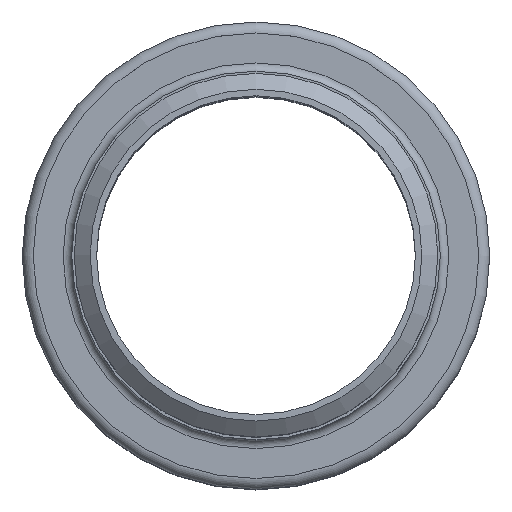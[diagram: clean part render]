
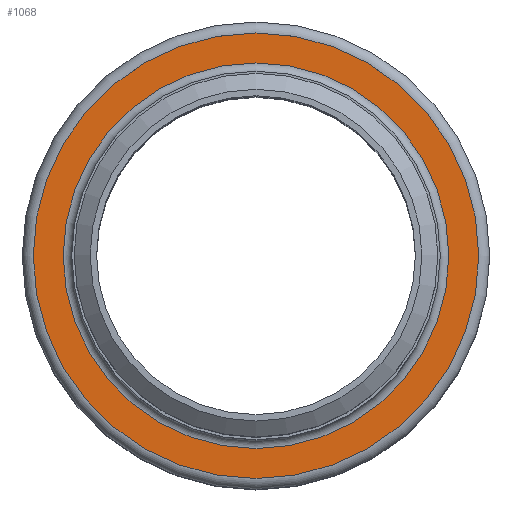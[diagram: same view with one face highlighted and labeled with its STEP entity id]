
A CAD part, top view. The second image highlights one B-rep face of the part: STEP entity #1068.
In plain terms, the highlighted planar face has unit normal (0, 0, 1).
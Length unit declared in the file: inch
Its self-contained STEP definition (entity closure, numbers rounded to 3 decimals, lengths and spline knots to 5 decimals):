
#102=FACE_BOUND('',#282,.T.);
#171=FACE_OUTER_BOUND('',#281,.T.);
#281=EDGE_LOOP('',(#824));
#282=EDGE_LOOP('',(#825));
#402=CIRCLE('',#1264,1.85575);
#403=CIRCLE('',#1266,2.14425);
#491=VERTEX_POINT('',#1935);
#492=VERTEX_POINT('',#1939);
#606=EDGE_CURVE('',#491,#491,#402,.T.);
#607=EDGE_CURVE('',#492,#492,#403,.T.);
#824=ORIENTED_EDGE('',*,*,#607,.F.);
#825=ORIENTED_EDGE('',*,*,#606,.T.);
#918=PLANE('',#1265);
#1068=ADVANCED_FACE('',(#171,#102),#918,.T.);
#1264=AXIS2_PLACEMENT_3D('',#1937,#1621,#1622);
#1265=AXIS2_PLACEMENT_3D('',#1938,#1623,#1624);
#1266=AXIS2_PLACEMENT_3D('',#1940,#1625,#1626);
#1621=DIRECTION('center_axis',(0.,0.,
-1.));
#1622=DIRECTION('ref_axis',(1.,0.,0.));
#1623=DIRECTION('center_axis',(0.,0.,
1.));
#1624=DIRECTION('ref_axis',(1.,0.,0.));
#1625=DIRECTION('center_axis',(0.,0.,
-1.));
#1626=DIRECTION('ref_axis',(1.,0.,0.));
#1935=CARTESIAN_POINT('',(1.85575,0.,-1.58175));
#1937=CARTESIAN_POINT('Origin',(0.,0.,
-1.58175));
#1938=CARTESIAN_POINT('Origin',(0.,2.14425,-1.58175));
#1939=CARTESIAN_POINT('',(2.14425,0.,-1.58175));
#1940=CARTESIAN_POINT('Origin',(0.,0.,
-1.58175));
